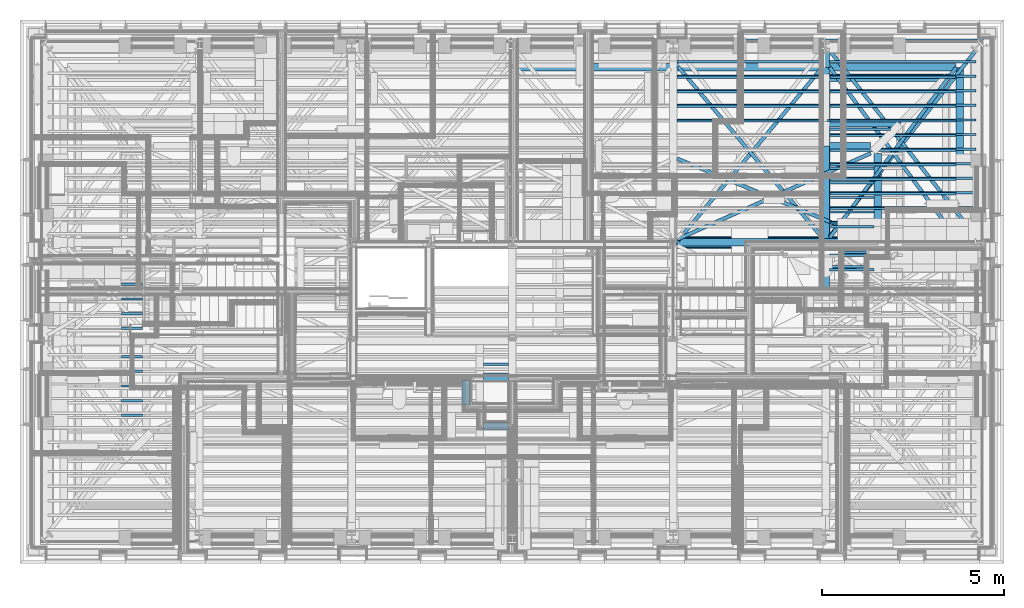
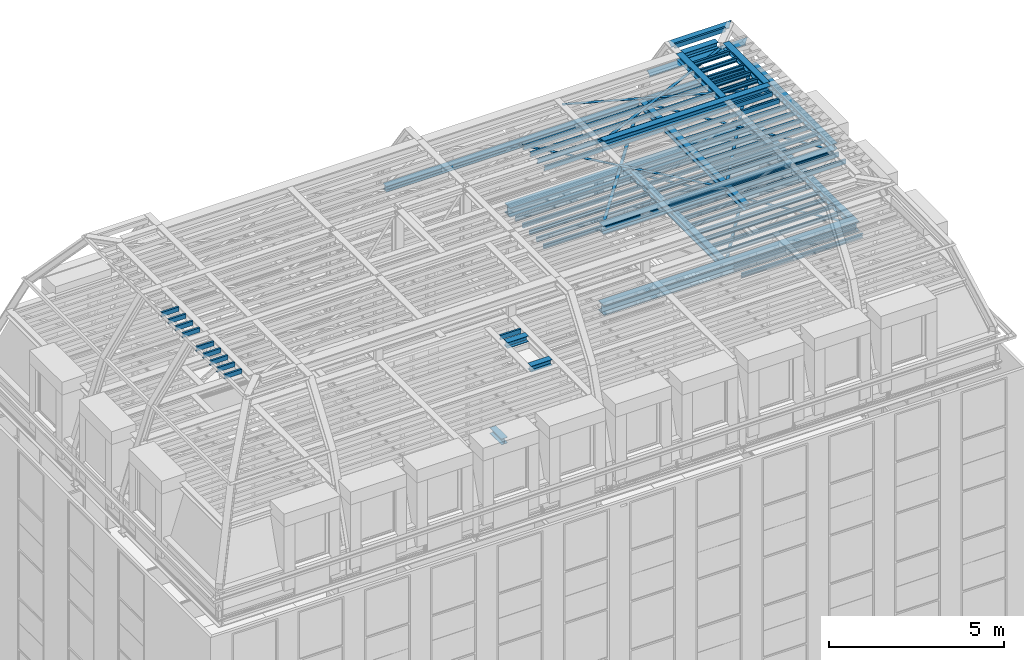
# One storey, part 11 of 183: 81 beams.
"""IFC2X3 building model written with IfcOpenShell, lengths in metres."""

from ifc_helpers import new_model, entity, si_unit, converted_unit, derived_unit, money_unit, direction, frame, frame_2d, origin_with_axes, place, context, subcontext, project, spatial, polyline, rectangle, outline, extrude, clip, halfspace, material, type_object, element, save


model = new_model("IFC2X3")

# Units and contexts
model_context = context("Model", 3, precision=1e-05, world=origin_with_axes(), true_north=direction((0.0, 1.0)))
body_context = subcontext(model_context, "Body", "Model", "MODEL_VIEW", scale=1.0)
ifc_project = project(units=[si_unit("LENGTHUNIT", "METRE"), si_unit("AREAUNIT", "SQUARE_METRE"), si_unit("VOLUMEUNIT", "CUBIC_METRE"), si_unit("ABSORBEDDOSEUNIT", "GRAY"), si_unit("AMOUNTOFSUBSTANCEUNIT", "MOLE"), si_unit("DOSEEQUIVALENTUNIT", "SIEVERT"), si_unit("ELECTRICCAPACITANCEUNIT", "FARAD"), si_unit("ELECTRICCHARGEUNIT", "COULOMB"), si_unit("ELECTRICCONDUCTANCEUNIT", "SIEMENS"), si_unit("ELECTRICCURRENTUNIT", "AMPERE"), si_unit("ELECTRICRESISTANCEUNIT", "OHM"), si_unit("ELECTRICVOLTAGEUNIT", "VOLT"), si_unit("ENERGYUNIT", "JOULE"), si_unit("FORCEUNIT", "NEWTON"), si_unit("FREQUENCYUNIT", "HERTZ"), si_unit("ILLUMINANCEUNIT", "LUX"), si_unit("INDUCTANCEUNIT", "HENRY"), si_unit("LUMINOUSFLUXUNIT", "LUMEN"), si_unit("LUMINOUSINTENSITYUNIT", "CANDELA"), si_unit("MAGNETICFLUXDENSITYUNIT", "TESLA"), si_unit("MAGNETICFLUXUNIT", "WEBER"), si_unit("MASSUNIT", "GRAM"), converted_unit("PLANEANGLEUNIT", "degree", entity("IfcReal", 0.0174532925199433), si_unit("PLANEANGLEUNIT", "RADIAN"), dimensions=[0, 0, 0, 0, 0, 0, 0]), si_unit("POWERUNIT", "WATT"), si_unit("PRESSUREUNIT", "PASCAL"), si_unit("RADIOACTIVITYUNIT", "BECQUEREL"), si_unit("SOLIDANGLEUNIT", "STERADIAN"), si_unit("THERMODYNAMICTEMPERATUREUNIT", "KELVIN"), si_unit("TIMEUNIT", "SECOND"), derived_unit("ACCELERATIONUNIT", [(si_unit("LENGTHUNIT", "METRE"), 1), (si_unit("TIMEUNIT", "SECOND"), -2)]), derived_unit("ANGULARVELOCITYUNIT", [(converted_unit("PLANEANGLEUNIT", "degree", entity("IfcReal", 0.0174532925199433), si_unit("PLANEANGLEUNIT", "RADIAN"), dimensions=[0, 0, 0, 0, 0, 0, 0]), 1), (si_unit("TIMEUNIT", "SECOND"), -1)]), derived_unit("CURVATUREUNIT", [(converted_unit("PLANEANGLEUNIT", "degree", entity("IfcReal", 0.0174532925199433), si_unit("PLANEANGLEUNIT", "RADIAN"), dimensions=[0, 0, 0, 0, 0, 0, 0]), 1), (si_unit("LENGTHUNIT", "METRE"), -1)]), derived_unit("DYNAMICVISCOSITYUNIT", [(si_unit("PRESSUREUNIT", "PASCAL"), 1), (si_unit("TIMEUNIT", "SECOND"), 1)]), derived_unit("HEATFLUXDENSITYUNIT", [(si_unit("POWERUNIT", "WATT"), 1), (si_unit("LENGTHUNIT", "METRE"), -2)]), derived_unit("HEATINGVALUEUNIT", [(si_unit("ENERGYUNIT", "JOULE"), 1), (si_unit("MASSUNIT", "GRAM"), -1)]), derived_unit("INTEGERCOUNTRATEUNIT", [(si_unit("TIMEUNIT", "SECOND"), -1)]), derived_unit("IONCONCENTRATIONUNIT", [(si_unit("MASSUNIT", "GRAM"), 1), (si_unit("VOLUMEUNIT", "CUBIC_METRE"), -1)]), derived_unit("ISOTHERMALMOISTURECAPACITYUNIT", [(si_unit("VOLUMEUNIT", "CUBIC_METRE"), 1), (si_unit("MASSUNIT", "GRAM"), -1)]), derived_unit("KINEMATICVISCOSITYUNIT", [(si_unit("AREAUNIT", "SQUARE_METRE"), 1), (si_unit("TIMEUNIT", "SECOND"), -1)]), derived_unit("LINEARFORCEUNIT", [(si_unit("FORCEUNIT", "NEWTON"), 1), (si_unit("LENGTHUNIT", "METRE"), -1)]), derived_unit("LINEARMOMENTUNIT", [(si_unit("FORCEUNIT", "NEWTON"), 1), (si_unit("LENGTHUNIT", "METRE"), -1)]), derived_unit("LINEARSTIFFNESSUNIT", [(si_unit("FORCEUNIT", "NEWTON"), 1), (si_unit("LENGTHUNIT", "METRE"), -1)]), derived_unit("LINEARVELOCITYUNIT", [(si_unit("LENGTHUNIT", "METRE"), 1), (si_unit("TIMEUNIT", "SECOND"), -1)]), derived_unit("LUMINOUSINTENSITYDISTRIBUTIONUNIT", [(si_unit("LUMINOUSINTENSITYUNIT", "CANDELA"), 1), (si_unit("LUMINOUSFLUXUNIT", "LUMEN"), -1)]), derived_unit("MASSDENSITYUNIT", [(si_unit("MASSUNIT", "GRAM"), 1), (si_unit("VOLUMEUNIT", "CUBIC_METRE"), -1)]), derived_unit("MASSFLOWRATEUNIT", [(si_unit("MASSUNIT", "GRAM"), 1), (si_unit("TIMEUNIT", "SECOND"), -1)]), derived_unit("MASSPERLENGTHUNIT", [(si_unit("MASSUNIT", "GRAM"), 1), (si_unit("LENGTHUNIT", "METRE"), -1)]), derived_unit("MODULUSOFELASTICITYUNIT", [(si_unit("FORCEUNIT", "NEWTON"), 1), (si_unit("AREAUNIT", "SQUARE_METRE"), -1)]), derived_unit("MODULUSOFLINEARSUBGRADEREACTIONUNIT", [(si_unit("FORCEUNIT", "NEWTON"), 1), (si_unit("LENGTHUNIT", "METRE"), -2)]), derived_unit("MODULUSOFROTATIONALSUBGRADEREACTIONUNIT", [(si_unit("FORCEUNIT", "NEWTON"), 1), (si_unit("LENGTHUNIT", "METRE"), 1)]), derived_unit("MODULUSOFSUBGRADEREACTIONUNIT", [(si_unit("FORCEUNIT", "NEWTON"), 1), (si_unit("VOLUMEUNIT", "CUBIC_METRE"), -1)]), derived_unit("MOISTUREDIFFUSIVITYUNIT", [(si_unit("VOLUMEUNIT", "CUBIC_METRE"), 1), (si_unit("TIMEUNIT", "SECOND"), -1)]), derived_unit("MOLECULARWEIGHTUNIT", [(si_unit("MASSUNIT", "GRAM"), 1), (si_unit("AMOUNTOFSUBSTANCEUNIT", "MOLE"), -1)]), derived_unit("PLANARFORCEUNIT", [(si_unit("FORCEUNIT", "NEWTON"), 1), (si_unit("LENGTHUNIT", "METRE"), -2)]), derived_unit("ROTATIONALFREQUENCYUNIT", [(si_unit("TIMEUNIT", "SECOND"), -1)]), derived_unit("ROTATIONALMASSUNIT", [(si_unit("MASSUNIT", "GRAM"), 1), (si_unit("LENGTHUNIT", "METRE"), 2)]), derived_unit("ROTATIONALSTIFFNESSUNIT", [(si_unit("FORCEUNIT", "NEWTON"), 1), (si_unit("LENGTHUNIT", "METRE"), 1), (converted_unit("PLANEANGLEUNIT", "degree", entity("IfcReal", 0.0174532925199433), si_unit("PLANEANGLEUNIT", "RADIAN"), dimensions=[0, 0, 0, 0, 0, 0, 0]), -1)]), derived_unit("SECTIONAREAINTEGRALUNIT", [(si_unit("LENGTHUNIT", "METRE"), 5)]), derived_unit("SECTIONMODULUSUNIT", [(si_unit("LENGTHUNIT", "METRE"), 3)]), derived_unit("SHEARMODULUSUNIT", [(si_unit("FORCEUNIT", "NEWTON"), 1), (si_unit("AREAUNIT", "SQUARE_METRE"), -1)]), derived_unit("SOUNDPOWERUNIT", [(si_unit("ENERGYUNIT", "JOULE"), 1), (si_unit("TIMEUNIT", "SECOND"), -1)]), derived_unit("SPECIFICHEATCAPACITYUNIT", [(si_unit("FORCEUNIT", "NEWTON"), 1), (si_unit("MASSUNIT", "GRAM"), -1), (si_unit("THERMODYNAMICTEMPERATUREUNIT", "KELVIN"), -1)]), derived_unit("TEMPERATUREGRADIENTUNIT", [(si_unit("THERMODYNAMICTEMPERATUREUNIT", "KELVIN"), 1), (si_unit("LENGTHUNIT", "METRE"), -1)]), derived_unit("THERMALADMITTANCEUNIT", [(si_unit("POWERUNIT", "WATT"), 1), (si_unit("AREAUNIT", "SQUARE_METRE"), -1), (si_unit("THERMODYNAMICTEMPERATUREUNIT", "KELVIN"), -1)]), derived_unit("THERMALCONDUCTANCEUNIT", [(si_unit("POWERUNIT", "WATT"), 1), (si_unit("LENGTHUNIT", "METRE"), -1), (si_unit("THERMODYNAMICTEMPERATUREUNIT", "KELVIN"), -1)]), derived_unit("THERMALEXPANSIONCOEFFICIENTUNIT", [(si_unit("THERMODYNAMICTEMPERATUREUNIT", "KELVIN"), -1)]), derived_unit("THERMALRESISTANCEUNIT", [(si_unit("AREAUNIT", "SQUARE_METRE"), 1), (si_unit("POWERUNIT", "WATT"), -1)]), derived_unit("THERMALTRANSMITTANCEUNIT", [(si_unit("POWERUNIT", "WATT"), 1), (si_unit("AREAUNIT", "SQUARE_METRE"), -1), (si_unit("THERMODYNAMICTEMPERATUREUNIT", "KELVIN"), -1)]), derived_unit("TORQUEUNIT", [(si_unit("FORCEUNIT", "NEWTON"), 1), (si_unit("LENGTHUNIT", "METRE"), 1)]), derived_unit("VAPORPERMEABILITYUNIT", [(si_unit("MASSUNIT", "GRAM"), 1), (si_unit("TIMEUNIT", "SECOND"), -1)]), derived_unit("VOLUMETRICFLOWRATEUNIT", [(si_unit("VOLUMEUNIT", "CUBIC_METRE"), 1), (si_unit("TIMEUNIT", "SECOND"), -1)]), derived_unit("WARPINGCONSTANTUNIT", [(si_unit("LENGTHUNIT", "METRE"), 6)]), derived_unit("WARPINGMOMENTUNIT", [(si_unit("FORCEUNIT", "NEWTON"), 1), (si_unit("LENGTHUNIT", "METRE"), 2)]), money_unit("GBP")], contexts=[model_context])

# Site, building, storey
site_placement = place(None, origin_with_axes())
site = spatial("IfcSite", under=ifc_project, at=site_placement, Name="Site", CompositionType="ELEMENT")
building_placement = place(site_placement, origin_with_axes())
building = spatial("IfcBuilding", under=site, at=building_placement, Name="Building01", CompositionType="ELEMENT")
storey_placement = place(building_placement, frame((0.0, 0.0, 5.15), z_axis=(0.0, 0.0, 1.0), x_axis=(1.0, 0.0, 0.0)))
storey = spatial("IfcBuildingStorey", under=building, at=storey_placement, Name="1F", CompositionType="ELEMENT", Elevation=5.15)

# Beams
ifc_material = material(Name="A_BSUK_Beams_Steel")
beam_type_1 = type_object("IfcBeamType", Name="A-Beams-Steel", PredefinedType="BEAM")
beam_1_placement = place(storey_placement, frame((17.985, 8.6408, 9.3775), z_axis=(1.0, 0.0, 0.0), x_axis=(0.0, 1.0, 0.0)))
element("IfcBeam", 1, at=beam_1_placement, inside=storey, type_object=beam_type_1, material=ifc_material, Name="4F", ObjectType="A-Beams-Steel", context=body_context, shape_type="SweptSolid", body=[
    extrude(outline(polyline([(0.3184, 0.0), (0.3184, 0.0377), (0.1707, 0.0377), (0.1707, 0.3148), (0.3184, 0.3148), (0.3184, 0.3525), (0.0, 0.3525), (0.0, 0.3148), (0.1477, 0.3148), (0.1477, 0.0377), (0.0, 0.0377), (0.0, 0.0), (0.3184, 0.0)])), origin_with_axes(), (0.0, 0.0, 1.0), 8.435),
])
beam_2_placement = place(storey_placement, frame((21.98545, 14.0688, 9.5078), z_axis=(0.0, -1.0, 0.0), x_axis=(1.0, 0.0, 0.0)))
element("IfcBeam", 2, at=beam_2_placement, inside=storey, type_object=beam_type_1, material=ifc_material, Name="4F", ObjectType="A-Beams-Steel", context=body_context, shape_type="SweptSolid", body=[
    extrude(outline(polyline([(0.2091, 0.0), (0.2091, 0.0205), (0.1109, 0.0205), (0.1109, 0.2017), (0.2091, 0.2017), (0.2091, 0.2222), (0.0, 0.2222), (0.0, 0.2017), (0.0982, 0.2017), (0.0982, 0.0205), (0.0, 0.0205), (0.0, 0.0), (0.2091, 0.0)])), origin_with_axes(), (0.0, 0.0, 1.0), 5.1096),
])
beam_3_placement = place(storey_placement, frame((26.2109, 14.38, 9.5078), z_axis=(0.0, -1.0, 0.0), x_axis=(1.0, 0.0, 0.0)))
element("IfcBeam", 3, at=beam_3_placement, inside=storey, type_object=beam_type_1, material=ifc_material, Name="4F", ObjectType="A-Beams-Steel", context=body_context, shape_type="SweptSolid", body=[
    extrude(outline(polyline([(0.2091, 0.0), (0.2091, 0.0205), (0.1109, 0.0205), (0.1109, 0.2017), (0.2091, 0.2017), (0.2091, 0.2222), (0.0, 0.2222), (0.0, 0.2017), (0.0982, 0.2017), (0.0982, 0.0205), (0.0, 0.0205), (0.0, 0.0), (0.2091, 0.0)])), origin_with_axes(), (0.0, 0.0, 1.0), 5.4208),
])
beam_4_placement = place(storey_placement, frame((12.1182, 5.0182, 9.5268), z_axis=(0.0, -1.0, 0.0), x_axis=(1.0, 0.0, 0.0)))
element("IfcBeam", 4, at=beam_4_placement, inside=storey, type_object=beam_type_1, material=ifc_material, Name="4F", ObjectType="A-Beams-Steel", context=body_context, shape_type="SweptSolid", body=[
    extrude(outline(polyline([(0.2036, 0.0), (0.2036, 0.011), (0.1054, 0.011), (0.1054, 0.1922), (0.2036, 0.1922), (0.2036, 0.2032), (0.0, 0.2032), (0.0, 0.1922), (0.0982, 0.1922), (0.0982, 0.011), (0.0, 0.011), (0.0, 0.0), (0.2036, 0.0)])), origin_with_axes(), (0.0, 0.0, 1.0), 0.6764),
])
beam_5_placement = place(storey_placement, frame((18.01455, 14.0688, 9.5078), z_axis=(1.0, 0.0, 0.0), x_axis=(0.0, 1.0, 0.0)))
element("IfcBeam", 5, at=beam_5_placement, inside=storey, type_object=beam_type_1, material=ifc_material, Name="4F", ObjectType="A-Beams-Steel", context=body_context, shape_type="SweptSolid", body=[
    extrude(outline(polyline([(0.3112, 0.0), (0.3112, 0.025), (0.1635, 0.025), (0.1635, 0.3021), (0.3112, 0.3021), (0.3112, 0.3271), (0.0, 0.3271), (0.0, 0.3021), (0.1477, 0.3021), (0.1477, 0.025), (0.0, 0.025), (0.0, 0.0), (0.3112, 0.0)])), origin_with_axes(), (0.0, 0.0, 1.0), 8.19635),
])
beam_6_placement = place(storey_placement, frame((13.6032, 13.4982, 12.2768), z_axis=(1.0, 0.0, 0.0), x_axis=(0.0, 1.0, 0.0)))
element("IfcBeam", 6, at=beam_6_placement, inside=storey, type_object=beam_type_1, material=ifc_material, Name="5F", ObjectType="A-Beams-Steel", context=body_context, shape_type="SweptSolid", body=[
    extrude(outline(polyline([(0.2036, 0.0), (0.2036, 0.011), (0.1054, 0.011), (0.1054, 0.1922), (0.2036, 0.1922), (0.2036, 0.2032), (0.0, 0.2032), (0.0, 0.1922), (0.0982, 0.1922), (0.0982, 0.011), (0.0, 0.011), (0.0, 0.0), (0.2036, 0.0)])), origin_with_axes(), (0.0, 0.0, 1.0), 8.3936),
])
beam_7_placement = place(storey_placement, frame((22.2032, 13.4982, 12.2768), z_axis=(1.0, 0.0, 0.0), x_axis=(0.0, 1.0, 0.0)))
element("IfcBeam", 7, at=beam_7_placement, inside=storey, type_object=beam_type_1, material=ifc_material, Name="5F", ObjectType="A-Beams-Steel", context=body_context, shape_type="SweptSolid", body=[
    extrude(outline(polyline([(0.2036, 0.0), (0.2036, 0.011), (0.1054, 0.011), (0.1054, 0.1922), (0.2036, 0.1922), (0.2036, 0.2032), (0.0, 0.2032), (0.0, 0.1922), (0.0982, 0.1922), (0.0982, 0.011), (0.0, 0.011), (0.0, 0.0), (0.2036, 0.0)])), origin_with_axes(), (0.0, 0.0, 1.0), 3.4636),
])
for number, where, z_axis, x_axis, name in (
    (8, (21.9968, 13.5982, 12.2642), (0.0, -1.0, 0.0), (1.0, 0.0, 0.0), "5F"),
    (9, (25.6668, 13.5982, 12.2642), (0.0, -1.0, 0.0), (1.0, 0.0, 0.0), "5F"),
):
    element("IfcBeam", number, at=place(storey_placement, frame(where, z_axis=z_axis, x_axis=x_axis)), inside=storey, type_object=beam_type_1, material=ifc_material, Name=name, ObjectType="A-Beams-Steel", context=body_context, shape_type="SweptSolid", body=[
        extrude(outline(polyline([(0.2064, 0.0), (0.2064, 0.0173), (0.1082, 0.0173), (0.1082, 0.1985), (0.2064, 0.1985), (0.2064, 0.2158), (0.0, 0.2158), (0.0, 0.1985), (0.0982, 0.1985), (0.0982, 0.0173), (0.0, 0.0173), (0.0, 0.0), (0.2064, 0.0)])), origin_with_axes(), (0.0, 0.0, 1.0), 4.665573),
    ])
beam_8_placement = place(storey_placement, frame((21.9982, 8.667427, 12.2768), z_axis=(0.0, -1.0, 0.0), x_axis=(1.0, 0.0, 0.0)))
element("IfcBeam", 10, at=beam_8_placement, inside=storey, type_object=beam_type_1, material=ifc_material, Name="5F", ObjectType="A-Beams-Steel", context=body_context, shape_type="SweptSolid", body=[
    extrude(outline(polyline([(0.2036, 0.0), (0.2036, 0.011), (0.1054, 0.011), (0.1054, 0.1922), (0.2036, 0.1922), (0.2036, 0.2032), (0.0, 0.2032), (0.0, 0.1922), (0.0982, 0.1922), (0.0982, 0.011), (0.0, 0.011), (0.0, 0.0), (0.2036, 0.0)])), origin_with_axes(), (0.0, 0.0, 1.0), 1.084827),
])
for number, where, z_axis, x_axis, name in (
    (11, (12.7018, 5.0182, 12.2768), (1.0, 0.0, 0.0), (0.0, 1.0, 0.0), "5F"),
    (12, (12.7018, 3.6546, 12.2768), (1.0, 0.0, 0.0), (0.0, 1.0, 0.0), "5F"),
):
    element("IfcBeam", number, at=place(storey_placement, frame(where, z_axis=z_axis, x_axis=x_axis)), inside=storey, type_object=beam_type_1, material=ifc_material, Name=name, ObjectType="A-Beams-Steel", context=body_context, shape_type="SweptSolid", body=[
        extrude(outline(polyline([(0.2036, 0.0), (0.2036, 0.011), (0.1054, 0.011), (0.1054, 0.1922), (0.2036, 0.1922), (0.2036, 0.2032), (0.0, 0.2032), (0.0, 0.1922), (0.0982, 0.1922), (0.0982, 0.011), (0.0, 0.011), (0.0, 0.0), (0.2036, 0.0)])), origin_with_axes(), (0.0, 0.0, 1.0), 0.695),
    ])
beam_9_placement = place(storey_placement, frame((17.985, 8.667427, 12.1909), z_axis=(1.0, 0.0, 0.0), x_axis=(0.0, 1.0, 0.0)))
element("IfcBeam", 13, at=beam_9_placement, inside=storey, type_object=beam_type_1, material=ifc_material, Name="5F", ObjectType="A-Beams-Steel", context=body_context, shape_type="SweptSolid", body=[
    extrude(outline(polyline([(0.2652, 0.0), (0.2652, 0.0317), (0.1422, 0.0317), (0.1422, 0.2574), (0.2652, 0.2574), (0.2652, 0.2891), (0.0, 0.2891), (0.0, 0.2574), (0.123, 0.2574), (0.123, 0.0317), (0.0, 0.0317), (0.0, 0.0), (0.2652, 0.0)])), origin_with_axes(), (0.0, 0.0, 1.0), 7.6818),
])
beam_10_placement = place(storey_placement, frame((21.988166, 11.4492, 15.2268), z_axis=(0.0, -1.0, 0.0), x_axis=(1.0, 0.0, 0.0)))
element("IfcBeam", 14, at=beam_10_placement, inside=storey, type_object=beam_type_1, material=ifc_material, Name="RP", ObjectType="A-Beams-Steel", context=body_context, shape_type="SweptSolid", body=[
    extrude(outline(polyline([(0.2036, 0.0), (0.2036, 0.011), (0.1054, 0.011), (0.1054, 0.1922), (0.2036, 0.1922), (0.2036, 0.2032), (0.0, 0.2032), (0.0, 0.1922), (0.0982, 0.1922), (0.0982, 0.011), (0.0, 0.011), (0.0, 0.0), (0.2036, 0.0)])), origin_with_axes(), (0.0, 0.0, 1.0), 2.546),
])
beam_11_placement = place(storey_placement, frame((23.415402, 11.2456, 15.2268), z_axis=(0.0, -1.0, 0.0), x_axis=(1.0, 0.0, 0.0)))
element("IfcBeam", 15, at=beam_11_placement, inside=storey, type_object=beam_type_1, material=ifc_material, Name="RP", ObjectType="A-Beams-Steel", context=body_context, shape_type="SweptSolid", body=[
    extrude(outline(polyline([(0.2036, 0.0), (0.2036, 0.011), (0.1054, 0.011), (0.1054, 0.1922), (0.2036, 0.1922), (0.2036, 0.2032), (0.0, 0.2032), (0.0, 0.1922), (0.0982, 0.1922), (0.0982, 0.011), (0.0, 0.011), (0.0, 0.0), (0.2036, 0.0)])), origin_with_axes(), (0.0, 0.0, 1.0), 2.3424),
])
beam_12_placement = place(storey_placement, frame((22.191766, 11.3356, 15.2268), z_axis=(1.0, 0.0, 0.0), x_axis=(0.0, 1.0, 0.0)))
element("IfcBeam", 16, at=beam_12_placement, inside=storey, type_object=beam_type_1, material=ifc_material, Name="RP", ObjectType="A-Beams-Steel", context=body_context, shape_type="SweptSolid", body=[
    extrude(outline(polyline([(0.2036, 0.0), (0.2036, 0.011), (0.1054, 0.011), (0.1054, 0.1922), (0.2036, 0.1922), (0.2036, 0.2032), (0.0, 0.2032), (0.0, 0.1922), (0.0982, 0.1922), (0.0982, 0.011), (0.0, 0.011), (0.0, 0.0), (0.2036, 0.0)])), origin_with_axes(), (0.0, 0.0, 1.0), 1.133636),
])
beam_13_placement = place(storey_placement, frame((18.0118, 8.6968, 15.2142), z_axis=(1.0, 0.0, 0.0), x_axis=(0.0, 1.0, 0.0)))
element("IfcBeam", 17, at=beam_13_placement, inside=storey, type_object=beam_type_1, material=ifc_material, Name="RP", ObjectType="A-Beams-Steel", context=body_context, shape_type="SweptSolid", body=[
    extrude(outline(polyline([(0.2064, 0.0), (0.2064, 0.0173), (0.1082, 0.0173), (0.1082, 0.1985), (0.2064, 0.1985), (0.2064, 0.2158), (0.0, 0.2158), (0.0, 0.1985), (0.0982, 0.1985), (0.0982, 0.0173), (0.0, 0.0173), (0.0, 0.0), (0.2064, 0.0)])), origin_with_axes(), (0.0, 0.0, 1.0), 5.517202),
])
for number, where, z_axis, x_axis, name in (
    (18, (22.15524, 14.037901, 9.568), (0.61797987, -0.78619392, 0.0), (0.78619392, 0.61797987, 0.0), "4F"),
    (19, (26.17159, 14.099699, 9.558), (-0.61797987, -0.78619392, 0.0), (0.78619392, -0.61797987, 0.0), "4F"),
):
    element("IfcBeam", number, at=place(storey_placement, frame(where, z_axis=z_axis, x_axis=x_axis)), inside=storey, type_object=beam_type_1, material=ifc_material, Name=name, ObjectType="A-Beams-Steel", context=body_context, shape_type="SweptSolid", body=[
        extrude(rectangle(XDim=0.01, YDim=0.1, at=frame_2d((0.05, 0.005), x_axis=(0.0, 1.0))), origin_with_axes(), (0.0, 0.0, 1.0), 6.49916),
    ])
beam_14_placement = place(storey_placement, frame((18.004199, 13.590611, 12.318), z_axis=(0.64458588, -0.76453191, 0.0), x_axis=(0.76453191, 0.64458588, 0.0)))
element("IfcBeam", 20, at=beam_14_placement, inside=storey, type_object=beam_type_1, material=ifc_material, Name="5F", ObjectType="A-Beams-Steel", context=body_context, shape_type="SweptSolid", body=[
    extrude(rectangle(XDim=0.01, YDim=0.1, at=frame_2d((0.05, 0.005), x_axis=(0.0, 1.0))), origin_with_axes(), (0.0, 0.0, 1.0), 6.134752),
])
beam_15_placement = place(storey_placement, frame((21.958379, 13.630198, 12.308), z_axis=(-0.63995394, -0.76841327, 0.0), x_axis=(0.76841327, -0.63995394, 0.0)))
element("IfcBeam", 21, at=beam_15_placement, inside=storey, type_object=beam_type_1, material=ifc_material, Name="5F", ObjectType="A-Beams-Steel", context=body_context, shape_type="SweptSolid", body=[
    extrude(rectangle(XDim=0.01, YDim=0.1, at=frame_2d((0.05, 0.005), x_axis=(0.0, 1.0))), origin_with_axes(), (0.0, 0.0, 1.0), 6.17869),
])
for number, where, z_axis, x_axis, name in (
    (22, (25.626654, 13.628004, 12.308), (-0.59607395, -0.80292954, 0.0), (0.80292954, -0.59607395, 0.0), "5F"),
    (23, (22.163054, 13.568396, 12.318), (0.59607395, -0.80292954, 0.0), (0.80292954, 0.59607395, 0.0), "5F"),
):
    element("IfcBeam", number, at=place(storey_placement, frame(where, z_axis=z_axis, x_axis=x_axis)), inside=storey, type_object=beam_type_1, material=ifc_material, Name=name, ObjectType="A-Beams-Steel", context=body_context, shape_type="SweptSolid", body=[
        extrude(rectangle(XDim=0.01, YDim=0.1, at=frame_2d((0.05, 0.005), x_axis=(0.0, 1.0))), origin_with_axes(), (0.0, 0.0, 1.0), 5.810688),
    ])
beam_16_placement = place(storey_placement, frame((17.999993, 11.05226, 15.258), z_axis=(0.92404426, -0.3822855, 0.0), x_axis=(0.3822855, 0.92404426, 0.0)))
element("IfcBeam", 24, at=beam_16_placement, inside=storey, type_object=beam_type_1, material=ifc_material, Name="RP", ObjectType="A-Beams-Steel", context=body_context, shape_type="SweptSolid", body=[
    extrude(rectangle(XDim=0.01, YDim=0.1, at=frame_2d((0.05, 0.005), x_axis=(0.0, 1.0))), origin_with_axes(), (0.0, 0.0, 1.0), 5.742468),
])
beam_17_placement = place(storey_placement, frame((18.040394, 8.838946, 15.268), z_axis=(0.91361682, 0.40657633, 0.0), x_axis=(-0.40657633, 0.91361682, 0.0)))
element("IfcBeam", 25, at=beam_17_placement, inside=storey, type_object=beam_type_1, material=ifc_material, Name="RP", ObjectType="A-Beams-Steel", context=body_context, shape_type="SweptSolid", body=[
    extrude(rectangle(XDim=0.01, YDim=0.1, at=frame_2d((0.05, 0.005), x_axis=(0.0, 1.0))), origin_with_axes(), (0.0, 0.0, 1.0), 5.806961),
])
beam_18_placement = place(storey_placement, frame((22.143194, 13.215773, 13.514975), z_axis=(1.0, 0.0, 0.0), x_axis=(0.0, 0.57351196, -0.81919718)))
element("IfcBeam", 26, at=beam_18_placement, inside=storey, type_object=beam_type_1, material=ifc_material, Name="5F", ObjectType="A-Beams-Steel", context=body_context, shape_type="Clipping", body=[
    clip(clip(extrude(outline(polyline([(0.075, 0.0), (0.075, 0.012), (0.006, 0.012), (0.006, 0.188), (0.075, 0.188), (0.075, 0.2), (0.0, 0.2), (0.0, 0.0), (0.075, 0.0)])), origin_with_axes(), (0.0, 0.0, 1.0), 3.354332), halfspace(frame((-0.902558, -1.289203, 1.57374), z_axis=(0.4055342, 0.57925988, -0.70710678), x_axis=(-0.86746356, 0.0, -0.49750073)), True)), halfspace(frame((-5.865269, -8.377875, -10.226934), z_axis=(0.4055342, 0.57925988, 0.70710678), x_axis=(0.86746356, 0.0, -0.49750073)), True)),
])
beam_19_placement = place(storey_placement, frame((22.121827, 11.959866, 15.308898), z_axis=(1.0, 0.0, 0.0), x_axis=(0.0, 0.57351196, -0.81919718)))
element("IfcBeam", 27, at=beam_19_placement, inside=storey, type_object=beam_type_1, material=ifc_material, Name="RP", ObjectType="A-Beams-Steel", context=body_context, shape_type="Clipping", body=[
    clip(clip(extrude(outline(polyline([(0.075, 0.0), (0.075, 0.012), (0.006, 0.012), (0.006, 0.188), (0.075, 0.188), (0.075, 0.2), (0.0, 0.2), (0.0, 0.0), (0.075, 0.0)])), origin_with_axes(), (0.0, 0.0, 1.0), 2.119791), halfspace(frame((-0.548546, -0.783537, 0.956469), z_axis=(0.4055342, 0.57925988, -0.70710678), x_axis=(-0.86746356, 0.0, -0.49750073)), True)), halfspace(frame((-5.499003, -7.854706, -9.588297), z_axis=(0.4055342, 0.57925988, 0.70710678), x_axis=(0.86746356, 0.0, -0.49750073)), True)),
])
beam_type_2 = type_object("IfcBeamType", Name="SHE_A-Beams-Steel-Purlin_150m15", PredefinedType="BEAM")
for number, where, z_axis, x_axis, name in (
    (28, (21.98545, 12.1912, 9.578), (-1.0, 0.0, 0.0), (0.0, -1.0, 0.0), "4F"),
    (29, (21.98545, 12.5912, 9.578), (-1.0, 0.0, 0.0), (0.0, -1.0, 0.0), "4F"),
    (30, (21.98545, 12.9912, 9.578), (-1.0, 0.0, 0.0), (0.0, -1.0, 0.0), "4F"),
    (31, (21.98545, 13.3912, 9.578), (-1.0, 0.0, 0.0), (0.0, -1.0, 0.0), "4F"),
    (32, (21.98545, 13.7912, 9.578), (-1.0, 0.0, 0.0), (0.0, -1.0, 0.0), "4F"),
):
    element("IfcBeam", number, at=place(storey_placement, frame(where, z_axis=z_axis, x_axis=x_axis)), inside=storey, type_object=beam_type_2, material=ifc_material, Name=name, ObjectType="SHE_A-Beams-Steel-Purlin_150m15", context=body_context, shape_type="SweptSolid", body=[
        extrude(outline(polyline([(0.064, 0.0), (0.064, 0.0155), (0.0625, 0.0155), (0.0625, 0.0015), (0.0015, 0.0015), (0.0015, 0.1505), (0.0625, 0.1505), (0.0625, 0.1365), (0.064, 0.1365), (0.064, 0.152), (0.0, 0.152), (0.0, 0.0), (0.064, 0.0)])), origin_with_axes(), (0.0, 0.0, 1.0), 3.9709),
    ])
for number, where, z_axis, x_axis, name in (
    (33, (22.2032, 9.300627, 12.328), (1.0, 0.0, 0.0), (0.0, 1.0, 0.0), "5F"),
    (34, (22.2032, 9.700627, 12.328), (1.0, 0.0, 0.0), (0.0, 1.0, 0.0), "5F"),
    (35, (22.2032, 10.100627, 12.328), (1.0, 0.0, 0.0), (0.0, 1.0, 0.0), "5F"),
    (36, (22.2032, 10.500627, 12.328), (1.0, 0.0, 0.0), (0.0, 1.0, 0.0), "5F"),
    (37, (22.2032, 10.900627, 12.328), (1.0, 0.0, 0.0), (0.0, 1.0, 0.0), "5F"),
    (38, (22.2032, 11.300627, 12.328), (1.0, 0.0, 0.0), (0.0, 1.0, 0.0), "5F"),
    (39, (22.2032, 11.700627, 12.328), (1.0, 0.0, 0.0), (0.0, 1.0, 0.0), "5F"),
    (40, (22.2032, 12.100627, 12.328), (1.0, 0.0, 0.0), (0.0, 1.0, 0.0), "5F"),
    (41, (22.2032, 12.500627, 12.328), (1.0, 0.0, 0.0), (0.0, 1.0, 0.0), "5F"),
    (42, (22.2032, 12.900627, 12.328), (1.0, 0.0, 0.0), (0.0, 1.0, 0.0), "5F"),
    (43, (22.2032, 13.300627, 12.328), (1.0, 0.0, 0.0), (0.0, 1.0, 0.0), "5F"),
):
    element("IfcBeam", number, at=place(storey_placement, frame(where, z_axis=z_axis, x_axis=x_axis)), inside=storey, type_object=beam_type_2, material=ifc_material, Name=name, ObjectType="SHE_A-Beams-Steel-Purlin_150m15", context=body_context, shape_type="SweptSolid", body=[
        extrude(outline(polyline([(0.064, 0.0), (0.064, 0.0155), (0.0625, 0.0155), (0.0625, 0.0015), (0.0015, 0.0015), (0.0015, 0.1505), (0.0625, 0.1505), (0.0625, 0.1365), (0.064, 0.1365), (0.064, 0.152), (0.0, 0.152), (0.0, 0.0), (0.064, 0.0)])), origin_with_axes(), (0.0, 0.0, 1.0), 3.4636),
    ])
beam_20_placement = place(storey_placement, frame((12.7018, 5.4298, 12.328), z_axis=(1.0, 0.0, 0.0), x_axis=(0.0, 0.0, 1.0)))
element("IfcBeam", 44, at=beam_20_placement, inside=storey, type_object=beam_type_2, material=ifc_material, Name="5F", ObjectType="SHE_A-Beams-Steel-Purlin_150m15", context=body_context, shape_type="SweptSolid", body=[
    extrude(outline(polyline([(0.152, 0.0), (0.152, -0.064), (0.1365, -0.064), (0.1365, -0.0625), (0.1505, -0.0625), (0.1505, -0.0015), (0.0015, -0.0015), (0.0015, -0.0625), (0.0155, -0.0625), (0.0155, -0.064), (0.0, -0.064), (0.0, 0.0), (0.152, 0.0)])), origin_with_axes(), (0.0, 0.0, 1.0), 0.695),
])
for number, where, z_axis, x_axis, name in (
    (45, (26.2109, 9.3912, 9.578), (-1.0, 0.0, 0.0), (0.0, -1.0, 0.0), "4F"),
    (46, (26.2109, 9.7912, 9.578), (-1.0, 0.0, 0.0), (0.0, -1.0, 0.0), "4F"),
    (47, (26.2109, 10.1912, 9.578), (-1.0, 0.0, 0.0), (0.0, -1.0, 0.0), "4F"),
    (48, (26.2109, 10.5912, 9.578), (-1.0, 0.0, 0.0), (0.0, -1.0, 0.0), "4F"),
    (49, (26.2109, 10.9912, 9.578), (-1.0, 0.0, 0.0), (0.0, -1.0, 0.0), "4F"),
    (50, (26.2109, 11.3912, 9.578), (-1.0, 0.0, 0.0), (0.0, -1.0, 0.0), "4F"),
    (51, (26.2109, 11.7912, 9.578), (-1.0, 0.0, 0.0), (0.0, -1.0, 0.0), "4F"),
    (52, (26.2109, 12.1912, 9.578), (-1.0, 0.0, 0.0), (0.0, -1.0, 0.0), "4F"),
    (53, (26.2109, 12.5912, 9.578), (-1.0, 0.0, 0.0), (0.0, -1.0, 0.0), "4F"),
    (54, (26.2109, 12.9912, 9.578), (-1.0, 0.0, 0.0), (0.0, -1.0, 0.0), "4F"),
    (55, (26.2109, 13.3912, 9.578), (-1.0, 0.0, 0.0), (0.0, -1.0, 0.0), "4F"),
    (56, (26.2109, 13.7912, 9.578), (-1.0, 0.0, 0.0), (0.0, -1.0, 0.0), "4F"),
):
    element("IfcBeam", number, at=place(storey_placement, frame(where, z_axis=z_axis, x_axis=x_axis)), inside=storey, type_object=beam_type_2, material=ifc_material, Name=name, ObjectType="SHE_A-Beams-Steel-Purlin_150m15", context=body_context, shape_type="SweptSolid", body=[
        extrude(outline(polyline([(0.064, 0.0), (0.064, 0.0155), (0.0625, 0.0155), (0.0625, 0.0015), (0.0015, 0.0015), (0.0015, 0.1505), (0.0625, 0.1505), (0.0625, 0.1365), (0.064, 0.1365), (0.064, 0.152), (0.0, 0.152), (0.0, 0.0), (0.064, 0.0)])), origin_with_axes(), (0.0, 0.0, 1.0), 4.01635),
    ])
for number, where, z_axis, x_axis, name in (
    (57, (23.415402, 9.267352, 15.278), (-1.0, 0.0, 0.0), (0.0, -1.0, 0.0), "RP"),
    (58, (23.415402, 9.667352, 15.278), (-1.0, 0.0, 0.0), (0.0, -1.0, 0.0), "RP"),
    (59, (23.415402, 10.067352, 15.278), (-1.0, 0.0, 0.0), (0.0, -1.0, 0.0), "RP"),
    (60, (23.415402, 10.467352, 15.278), (-1.0, 0.0, 0.0), (0.0, -1.0, 0.0), "RP"),
    (61, (23.415402, 10.867352, 15.278), (-1.0, 0.0, 0.0), (0.0, -1.0, 0.0), "RP"),
    (62, (22.191766, 8.018, 15.278), (1.0, 0.0, 0.0), (0.0, 1.0, 0.0), "RP"),
    (63, (22.191766, 8.418, 15.278), (1.0, 0.0, 0.0), (0.0, 1.0, 0.0), "RP"),
):
    element("IfcBeam", number, at=place(storey_placement, frame(where, z_axis=z_axis, x_axis=x_axis)), inside=storey, type_object=beam_type_2, material=ifc_material, Name=name, ObjectType="SHE_A-Beams-Steel-Purlin_150m15", context=body_context, shape_type="SweptSolid", body=[
        extrude(outline(polyline([(0.064, 0.0), (0.064, 0.0155), (0.0625, 0.0155), (0.0625, 0.0015), (0.0015, 0.0015), (0.0015, 0.1505), (0.0625, 0.1505), (0.0625, 0.1365), (0.064, 0.1365), (0.064, 0.152), (0.0, 0.152), (0.0, 0.0), (0.064, 0.0)])), origin_with_axes(), (0.0, 0.0, 1.0), 1.223636),
    ])
for number, where, z_axis, x_axis, name in (
    (64, (26.21365, 8.112, 9.578), (-1.0, 0.0, 0.0), (0.0, -1.0, 0.0), "4F"),
    (65, (26.21365, 8.512, 9.578), (-1.0, 0.0, 0.0), (0.0, -1.0, 0.0), "4F"),
):
    element("IfcBeam", number, at=place(storey_placement, frame(where, z_axis=z_axis, x_axis=x_axis)), inside=storey, type_object=beam_type_2, material=ifc_material, Name=name, ObjectType="SHE_A-Beams-Steel-Purlin_150m15", context=body_context, shape_type="SweptSolid", body=[
        extrude(outline(polyline([(0.064, 0.0), (0.064, 0.0155), (0.0625, 0.0155), (0.0625, 0.0015), (0.0015, 0.0015), (0.0015, 0.1505), (0.0625, 0.1505), (0.0625, 0.1365), (0.064, 0.1365), (0.064, 0.152), (0.0, 0.152), (0.0, 0.0), (0.064, 0.0)])), origin_with_axes(), (0.0, 0.0, 1.0), 4.01185),
    ])
for number, where, z_axis, x_axis, name in (
    (66, (18.0146, 12.900627, 12.328), (1.0, 0.0, 0.0), (0.0, 1.0, 0.0), "5F"),
    (67, (18.0146, 13.300627, 12.328), (1.0, 0.0, 0.0), (0.0, 1.0, 0.0), "5F"),
    (68, (18.0146, 12.500627, 12.328), (1.0, 0.0, 0.0), (0.0, 1.0, 0.0), "5F"),
    (69, (18.0146, 12.100627, 12.328), (1.0, 0.0, 0.0), (0.0, 1.0, 0.0), "5F"),
):
    element("IfcBeam", number, at=place(storey_placement, frame(where, z_axis=z_axis, x_axis=x_axis)), inside=storey, type_object=beam_type_2, material=ifc_material, Name=name, ObjectType="SHE_A-Beams-Steel-Purlin_150m15", context=body_context, shape_type="SweptSolid", body=[
        extrude(outline(polyline([(0.064, 0.0), (0.064, 0.0155), (0.0625, 0.0155), (0.0625, 0.0015), (0.0015, 0.0015), (0.0015, 0.1505), (0.0625, 0.1505), (0.0625, 0.1365), (0.064, 0.1365), (0.064, 0.152), (0.0, 0.152), (0.0, 0.0), (0.064, 0.0)])), origin_with_axes(), (0.0, 0.0, 1.0), 3.9822),
    ])
for number, where, z_axis, x_axis, name in (
    (70, (22.2018, 8.500627, 12.328), (1.0, 0.0, 0.0), (0.0, 1.0, 0.0), "5F"),
    (71, (22.2018, 8.100627, 12.328), (1.0, 0.0, 0.0), (0.0, 1.0, 0.0), "5F"),
):
    element("IfcBeam", number, at=place(storey_placement, frame(where, z_axis=z_axis, x_axis=x_axis)), inside=storey, type_object=beam_type_2, material=ifc_material, Name=name, ObjectType="SHE_A-Beams-Steel-Purlin_150m15", context=body_context, shape_type="SweptSolid", body=[
        extrude(outline(polyline([(0.064, 0.0), (0.064, 0.0155), (0.0625, 0.0155), (0.0625, 0.0015), (0.0015, 0.0015), (0.0015, 0.1505), (0.0625, 0.1505), (0.0625, 0.1365), (0.064, 0.1365), (0.064, 0.152), (0.0, 0.152), (0.0, 0.0), (0.064, 0.0)])), origin_with_axes(), (0.0, 0.0, 1.0), 3.465),
    ])
beam_21_placement = place(storey_placement, frame((22.191766, 11.8692, 15.278), z_axis=(1.0, 0.0, 0.0), x_axis=(0.0, 1.0, 0.0)))
element("IfcBeam", 72, at=beam_21_placement, inside=storey, type_object=beam_type_2, material=ifc_material, Name="RP", ObjectType="SHE_A-Beams-Steel-Purlin_150m15", context=body_context, shape_type="SweptSolid", body=[
    extrude(outline(polyline([(0.064, 0.0), (0.064, 0.0155), (0.0625, 0.0155), (0.0625, 0.0015), (0.0015, 0.0015), (0.0015, 0.1505), (0.0625, 0.1505), (0.0625, 0.1365), (0.064, 0.1365), (0.064, 0.152), (0.0, 0.152), (0.0, 0.0), (0.064, 0.0)])), origin_with_axes(), (0.0, 0.0, 1.0), 1.675614),
])
for number, where, z_axis, x_axis, name in (
    (73, (2.781597, 7.618152, 15.278), (1.0, 0.0, 0.0), (0.0, 1.0, 0.0), "RP"),
    (74, (2.781597, 7.218152, 15.278), (1.0, 0.0, 0.0), (0.0, 1.0, 0.0), "RP"),
    (75, (2.781597, 6.818, 15.278), (1.0, 0.0, 0.0), (0.0, 1.0, 0.0), "RP"),
    (76, (2.781597, 6.418, 15.278), (1.0, 0.0, 0.0), (0.0, 1.0, 0.0), "RP"),
    (77, (2.781597, 4.032648, 15.278), (1.0, 0.0, 0.0), (0.0, 1.0, 0.0), "RP"),
    (78, (2.781597, 4.4328, 15.278), (1.0, 0.0, 0.0), (0.0, 1.0, 0.0), "RP"),
    (79, (2.781597, 4.8328, 15.278), (1.0, 0.0, 0.0), (0.0, 1.0, 0.0), "RP"),
    (80, (2.781597, 5.2328, 15.278), (1.0, 0.0, 0.0), (0.0, 1.0, 0.0), "RP"),
    (81, (2.781597, 5.6328, 15.278), (1.0, 0.0, 0.0), (0.0, 1.0, 0.0), "RP"),
):
    element("IfcBeam", number, at=place(storey_placement, frame(where, z_axis=z_axis, x_axis=x_axis)), inside=storey, type_object=beam_type_2, material=ifc_material, Name=name, ObjectType="SHE_A-Beams-Steel-Purlin_150m15", context=body_context, shape_type="SweptSolid", body=[
        extrude(outline(polyline([(0.064, 0.0), (0.064, 0.0155), (0.0625, 0.0155), (0.0625, 0.0015), (0.0015, 0.0015), (0.0015, 0.1505), (0.0625, 0.1505), (0.0625, 0.1365), (0.064, 0.1365), (0.064, 0.152), (0.0, 0.152), (0.0, 0.0), (0.064, 0.0)])), origin_with_axes(), (0.0, 0.0, 1.0), 0.579603),
    ])

save(model, "model.ifc")
